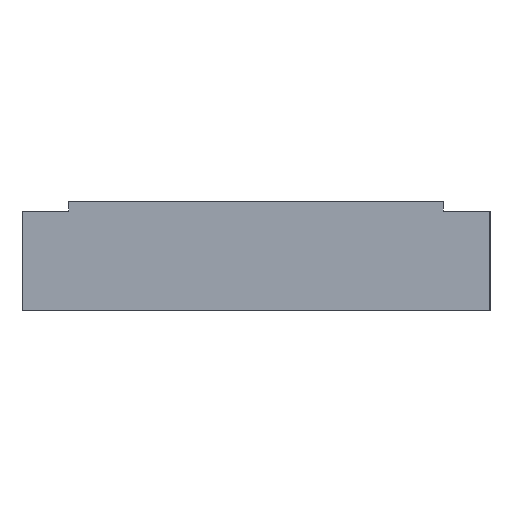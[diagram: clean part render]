
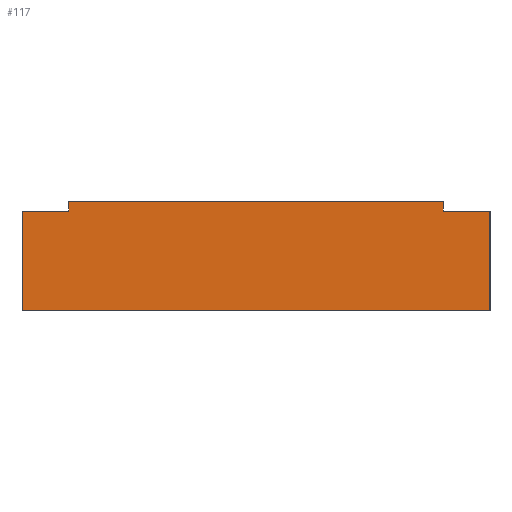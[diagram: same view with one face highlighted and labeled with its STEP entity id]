
A CAD part, left-side view. The second image highlights one B-rep face of the part: STEP entity #117.
In plain terms, the highlighted planar face has unit normal (-1, 0, 0).
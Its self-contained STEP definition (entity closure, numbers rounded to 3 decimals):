
#26 = LINE ( 'NONE', #606, #2321 ) ;
#28 = LINE ( 'NONE', #1893, #533 ) ;
#36 = CARTESIAN_POINT ( 'NONE',  ( -48., 40., 21.2 ) ) ;
#116 = CARTESIAN_POINT ( 'NONE',  ( -48., 40., 23.2 ) ) ;
#117 = ADVANCED_FACE ( 'NONE', ( #1510 ), #227, .F. ) ;
#122 = CARTESIAN_POINT ( 'NONE',  ( -48., 40., 23.2 ) ) ;
#137 = LINE ( 'NONE', #2353, #208 ) ;
#158 = VERTEX_POINT ( 'NONE', #390 ) ;
#161 = ORIENTED_EDGE ( 'NONE', *, *, #2326, .F. ) ;
#164 = VECTOR ( 'NONE', #2174, 1000. ) ;
#208 = VECTOR ( 'NONE', #2343, 1000. ) ;
#227 = PLANE ( 'NONE',  #1713 ) ;
#252 = CARTESIAN_POINT ( 'NONE',  ( -48., 40., 23.2 ) ) ;
#256 = DIRECTION ( 'NONE',  ( 0., -1., 0. ) ) ;
#326 = EDGE_CURVE ( 'NONE', #1628, #1028, #137, .T. ) ;
#354 = VERTEX_POINT ( 'NONE', #1334 ) ;
#358 = ORIENTED_EDGE ( 'NONE', *, *, #1688, .F. ) ;
#361 = VERTEX_POINT ( 'NONE', #504 ) ;
#367 = LINE ( 'NONE', #1515, #1701 ) ;
#390 = CARTESIAN_POINT ( 'NONE',  ( -48., -50., 0. ) ) ;
#442 = DIRECTION ( 'NONE',  ( 0., -1., 0. ) ) ;
#504 = CARTESIAN_POINT ( 'NONE',  ( -48., -40., 23.2 ) ) ;
#533 = VECTOR ( 'NONE', #442, 1000. ) ;
#552 = LINE ( 'NONE', #1549, #935 ) ;
#606 = CARTESIAN_POINT ( 'NONE',  ( -48., -50., 21.2 ) ) ;
#610 = CARTESIAN_POINT ( 'NONE',  ( -48., -40., 21.2 ) ) ;
#614 = VERTEX_POINT ( 'NONE', #610 ) ;
#668 = CARTESIAN_POINT ( 'NONE',  ( -48., 50., 21.2 ) ) ;
#707 = LINE ( 'NONE', #122, #164 ) ;
#858 = LINE ( 'NONE', #1995, #1906 ) ;
#873 = EDGE_CURVE ( 'NONE', #2033, #158, #367, .T. ) ;
#935 = VECTOR ( 'NONE', #1126, 1000. ) ;
#956 = ORIENTED_EDGE ( 'NONE', *, *, #1155, .F. ) ;
#982 = ORIENTED_EDGE ( 'NONE', *, *, #2040, .T. ) ;
#1028 = VERTEX_POINT ( 'NONE', #36 ) ;
#1126 = DIRECTION ( 'NONE',  ( 0., 0., -1. ) ) ;
#1155 = EDGE_CURVE ( 'NONE', #614, #354, #28, .T. ) ;
#1218 = DIRECTION ( 'NONE',  ( 0., 0., -1. ) ) ;
#1334 = CARTESIAN_POINT ( 'NONE',  ( -48., -50., 21.2 ) ) ;
#1405 = EDGE_CURVE ( 'NONE', #1628, #2033, #552, .T. ) ;
#1439 = CARTESIAN_POINT ( 'NONE',  ( -48., 50., 21.2 ) ) ;
#1510 = FACE_OUTER_BOUND ( 'NONE', #2368, .T. ) ;
#1515 = CARTESIAN_POINT ( 'NONE',  ( -48., 50., 0. ) ) ;
#1549 = CARTESIAN_POINT ( 'NONE',  ( -48., 50., 21.2 ) ) ;
#1628 = VERTEX_POINT ( 'NONE', #1439 ) ;
#1686 = ORIENTED_EDGE ( 'NONE', *, *, #1405, .T. ) ;
#1688 = EDGE_CURVE ( 'NONE', #2345, #361, #707, .T. ) ;
#1701 = VECTOR ( 'NONE', #256, 1000. ) ;
#1705 = DIRECTION ( 'NONE',  ( 0., 0., -1. ) ) ;
#1713 = AXIS2_PLACEMENT_3D ( 'NONE', #668, #2332, #2162 ) ;
#1893 = CARTESIAN_POINT ( 'NONE',  ( -48., 50., 21.2 ) ) ;
#1906 = VECTOR ( 'NONE', #2176, 1000. ) ;
#1995 = CARTESIAN_POINT ( 'NONE',  ( -48., -40., 23.2 ) ) ;
#2033 = VERTEX_POINT ( 'NONE', #2303 ) ;
#2040 = EDGE_CURVE ( 'NONE', #2345, #1028, #2537, .T. ) ;
#2150 = VECTOR ( 'NONE', #1705, 1000. ) ;
#2162 = DIRECTION ( 'NONE',  ( 0., 1., 0. ) ) ;
#2174 = DIRECTION ( 'NONE',  ( 0., -1., 0. ) ) ;
#2176 = DIRECTION ( 'NONE',  ( 0., 0., -1. ) ) ;
#2303 = CARTESIAN_POINT ( 'NONE',  ( -48., 50., 0. ) ) ;
#2321 = VECTOR ( 'NONE', #1218, 1000. ) ;
#2326 = EDGE_CURVE ( 'NONE', #361, #614, #858, .T. ) ;
#2332 = DIRECTION ( 'NONE',  ( 1., 0., 0. ) ) ;
#2343 = DIRECTION ( 'NONE',  ( 0., -1., 0. ) ) ;
#2345 = VERTEX_POINT ( 'NONE', #116 ) ;
#2353 = CARTESIAN_POINT ( 'NONE',  ( -48., 50., 21.2 ) ) ;
#2368 = EDGE_LOOP ( 'NONE', ( #2418, #2691, #956, #161, #358, #982, #2630, #1686 ) ) ;
#2418 = ORIENTED_EDGE ( 'NONE', *, *, #873, .T. ) ;
#2537 = LINE ( 'NONE', #252, #2150 ) ;
#2630 = ORIENTED_EDGE ( 'NONE', *, *, #326, .F. ) ;
#2663 = EDGE_CURVE ( 'NONE', #354, #158, #26, .T. ) ;
#2691 = ORIENTED_EDGE ( 'NONE', *, *, #2663, .F. ) ;
